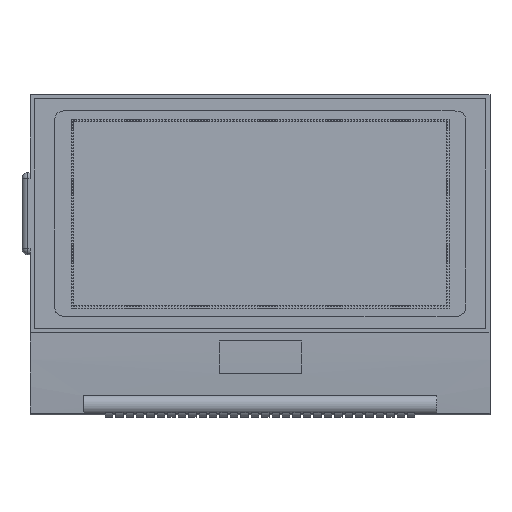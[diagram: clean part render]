
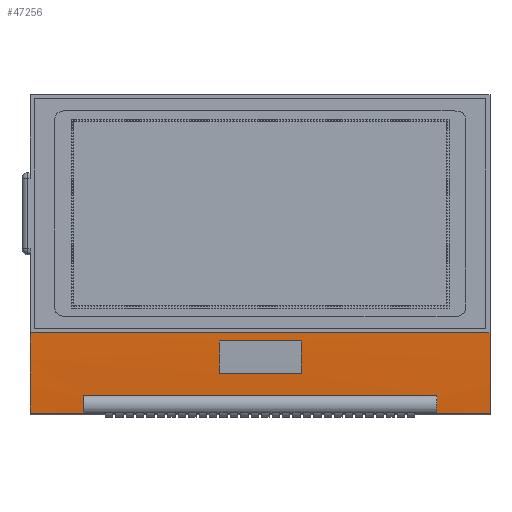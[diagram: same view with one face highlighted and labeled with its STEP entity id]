
A CAD part, top view. The second image highlights one B-rep face of the part: STEP entity #47256.
In plain terms, the highlighted cylindrical face has radius 121.019 mm (diameter 242.039 mm), a partial arc.
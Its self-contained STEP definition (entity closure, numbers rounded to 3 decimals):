
#81 = VERTEX_POINT ( 'NONE', #58075 ) ;
#125 = CIRCLE ( 'NONE', #13686, 121.02 ) ;
#1678 = EDGE_CURVE ( 'NONE', #81, #6415, #22177, .T. ) ;
#1791 = VERTEX_POINT ( 'NONE', #38185 ) ;
#1884 = EDGE_LOOP ( 'NONE', ( #75574, #41851, #46231, #30333 ) ) ;
#4065 = EDGE_CURVE ( 'NONE', #57414, #81, #60618, .T. ) ;
#4075 = CARTESIAN_POINT ( 'NONE',  ( 6.5, -9.792, -0.699 ) ) ;
#6415 = VERTEX_POINT ( 'NONE', #73495 ) ;
#6563 = ORIENTED_EDGE ( 'NONE', *, *, #14241, .F. ) ;
#6680 = CARTESIAN_POINT ( 'NONE',  ( 0., 0., 0. ) ) ;
#6838 = CIRCLE ( 'NONE', #49739, 121.02 ) ;
#7155 = ORIENTED_EDGE ( 'NONE', *, *, #59587, .T. ) ;
#7198 = CIRCLE ( 'NONE', #58668, 121.02 ) ;
#7627 = VERTEX_POINT ( 'NONE', #32875 ) ;
#8560 = VECTOR ( 'NONE', #43774, 1000. ) ;
#8625 = DIRECTION ( 'NONE',  ( 0., 0., 1. ) ) ;
#8831 = CARTESIAN_POINT ( 'NONE',  ( 28., -7.702, -0.483 ) ) ;
#9256 = CARTESIAN_POINT ( 'NONE',  ( 0., 3.715, -120.962 ) ) ;
#9389 = DIRECTION ( 'NONE',  ( 1., 0., 0. ) ) ;
#9698 = DIRECTION ( 'NONE',  ( 1., 0., 0. ) ) ;
#9715 = EDGE_CURVE ( 'NONE', #57414, #49045, #45766, .T. ) ;
#9759 = CARTESIAN_POINT ( 'NONE',  ( 0., 3.715, -120.962 ) ) ;
#10892 = DIRECTION ( 'NONE',  ( 0., 1., 0. ) ) ;
#13317 = EDGE_CURVE ( 'NONE', #7627, #35158, #59276, .T. ) ;
#13686 = AXIS2_PLACEMENT_3D ( 'NONE', #31037, #48289, #17619 ) ;
#14241 = EDGE_CURVE ( 'NONE', #35158, #67479, #7198, .T. ) ;
#14399 = DIRECTION ( 'NONE',  ( 1., 0., 0. ) ) ;
#14905 = VERTEX_POINT ( 'NONE', #66467 ) ;
#15781 = CARTESIAN_POINT ( 'NONE',  ( 56., 0., 0. ) ) ;
#15843 = CARTESIAN_POINT ( 'NONE',  ( 0., -9.8, -0.7 ) ) ;
#16884 = ORIENTED_EDGE ( 'NONE', *, *, #4065, .T. ) ;
#17619 = DIRECTION ( 'NONE',  ( 0., 0., -1. ) ) ;
#17656 = VECTOR ( 'NONE', #74997, 1000. ) ;
#18392 = DIRECTION ( 'NONE',  ( 1., 0., 0. ) ) ;
#18422 = ORIENTED_EDGE ( 'NONE', *, *, #13317, .F. ) ;
#18611 = FACE_BOUND ( 'NONE', #48502, .T. ) ;
#20167 = CARTESIAN_POINT ( 'NONE',  ( 56., 3.715, -120.962 ) ) ;
#20520 = DIRECTION ( 'NONE',  ( 0., 1., 0. ) ) ;
#20567 = VERTEX_POINT ( 'NONE', #4075 ) ;
#21219 = CARTESIAN_POINT ( 'NONE',  ( 23., -1., -0.035 ) ) ;
#22177 = CIRCLE ( 'NONE', #65145, 121.02 ) ;
#22683 = VECTOR ( 'NONE', #9698, 1000. ) ;
#22725 = CARTESIAN_POINT ( 'NONE',  ( 0., -5., -0.257 ) ) ;
#23021 = EDGE_CURVE ( 'NONE', #20567, #69188, #33487, .T. ) ;
#25347 = EDGE_CURVE ( 'NONE', #1791, #44939, #125, .T. ) ;
#25921 = CARTESIAN_POINT ( 'NONE',  ( 23., -5., -0.257 ) ) ;
#26018 = LINE ( 'NONE', #49438, #64977 ) ;
#29159 = EDGE_CURVE ( 'NONE', #20567, #1791, #26018, .T. ) ;
#30014 = ORIENTED_EDGE ( 'NONE', *, *, #9715, .F. ) ;
#30333 = ORIENTED_EDGE ( 'NONE', *, *, #25347, .F. ) ;
#31037 = CARTESIAN_POINT ( 'NONE',  ( 49.5, 3.715, -120.962 ) ) ;
#32875 = CARTESIAN_POINT ( 'NONE',  ( 0., 0., 0. ) ) ;
#32907 = EDGE_CURVE ( 'NONE', #7627, #14905, #6838, .T. ) ;
#33487 = CIRCLE ( 'NONE', #43295, 121.02 ) ;
#34778 = FACE_OUTER_BOUND ( 'NONE', #47335, .T. ) ;
#35158 = VERTEX_POINT ( 'NONE', #15781 ) ;
#36287 = DIRECTION ( 'NONE',  ( -1., 0., 0. ) ) ;
#36665 = CARTESIAN_POINT ( 'NONE',  ( 6.5, 3.715, -120.962 ) ) ;
#36685 = CARTESIAN_POINT ( 'NONE',  ( 33., 3.715, -120.962 ) ) ;
#38053 = FACE_BOUND ( 'NONE', #1884, .T. ) ;
#38185 = CARTESIAN_POINT ( 'NONE',  ( 49.5, -9.792, -0.699 ) ) ;
#38450 = DIRECTION ( 'NONE',  ( 1., 0., 0. ) ) ;
#38748 = AXIS2_PLACEMENT_3D ( 'NONE', #9256, #38450, #49585 ) ;
#41851 = ORIENTED_EDGE ( 'NONE', *, *, #23021, .T. ) ;
#43295 = AXIS2_PLACEMENT_3D ( 'NONE', #36665, #36287, #47418 ) ;
#43384 = AXIS2_PLACEMENT_3D ( 'NONE', #45936, #70168, #52854 ) ;
#43774 = DIRECTION ( 'NONE',  ( -1., 0., 0. ) ) ;
#44939 = VERTEX_POINT ( 'NONE', #61463 ) ;
#45766 = CIRCLE ( 'NONE', #43384, 121.02 ) ;
#45893 = EDGE_CURVE ( 'NONE', #14905, #67479, #63842, .T. ) ;
#45936 = CARTESIAN_POINT ( 'NONE',  ( 23., 3.715, -120.962 ) ) ;
#46231 = ORIENTED_EDGE ( 'NONE', *, *, #74472, .F. ) ;
#46570 = ORIENTED_EDGE ( 'NONE', *, *, #1678, .T. ) ;
#47256 = ADVANCED_FACE ( 'NONE', ( #34778, #18611, #38053 ), #47777, .T. ) ;
#47335 = EDGE_LOOP ( 'NONE', ( #6563, #18422, #65547, #75051 ) ) ;
#47418 = DIRECTION ( 'NONE',  ( 0., 0., -1. ) ) ;
#47777 = CYLINDRICAL_SURFACE ( 'NONE', #38748, 121.02 ) ;
#48289 = DIRECTION ( 'NONE',  ( -1., 0., 0. ) ) ;
#48502 = EDGE_LOOP ( 'NONE', ( #30014, #16884, #46570, #7155 ) ) ;
#49045 = VERTEX_POINT ( 'NONE', #25921 ) ;
#49438 = CARTESIAN_POINT ( 'NONE',  ( 0., -9.792, -0.699 ) ) ;
#49585 = DIRECTION ( 'NONE',  ( 0., 0., -1. ) ) ;
#49739 = AXIS2_PLACEMENT_3D ( 'NONE', #9759, #9389, #20520 ) ;
#52854 = DIRECTION ( 'NONE',  ( 0., 0., 1. ) ) ;
#57200 = CARTESIAN_POINT ( 'NONE',  ( 6.5, -7.702, -0.483 ) ) ;
#57300 = LINE ( 'NONE', #22725, #17656 ) ;
#57414 = VERTEX_POINT ( 'NONE', #21219 ) ;
#58075 = CARTESIAN_POINT ( 'NONE',  ( 33., -1., -0.035 ) ) ;
#58668 = AXIS2_PLACEMENT_3D ( 'NONE', #20167, #14399, #10892 ) ;
#59276 = LINE ( 'NONE', #6680, #69868 ) ;
#59587 = EDGE_CURVE ( 'NONE', #6415, #49045, #57300, .T. ) ;
#60302 = LINE ( 'NONE', #8831, #8560 ) ;
#60618 = LINE ( 'NONE', #65996, #62862 ) ;
#61463 = CARTESIAN_POINT ( 'NONE',  ( 49.5, -7.702, -0.483 ) ) ;
#62862 = VECTOR ( 'NONE', #18392, 1000. ) ;
#63842 = LINE ( 'NONE', #15843, #22683 ) ;
#64977 = VECTOR ( 'NONE', #67489, 1000. ) ;
#65145 = AXIS2_PLACEMENT_3D ( 'NONE', #36685, #65526, #8625 ) ;
#65526 = DIRECTION ( 'NONE',  ( 1., 0., 0. ) ) ;
#65547 = ORIENTED_EDGE ( 'NONE', *, *, #32907, .T. ) ;
#65996 = CARTESIAN_POINT ( 'NONE',  ( 0., -1., -0.035 ) ) ;
#66467 = CARTESIAN_POINT ( 'NONE',  ( 0., -9.8, -0.7 ) ) ;
#66839 = DIRECTION ( 'NONE',  ( 1., 0., 0. ) ) ;
#67479 = VERTEX_POINT ( 'NONE', #67682 ) ;
#67489 = DIRECTION ( 'NONE',  ( 1., 0., 0. ) ) ;
#67682 = CARTESIAN_POINT ( 'NONE',  ( 56., -9.8, -0.7 ) ) ;
#69188 = VERTEX_POINT ( 'NONE', #57200 ) ;
#69868 = VECTOR ( 'NONE', #66839, 1000. ) ;
#70168 = DIRECTION ( 'NONE',  ( 1., 0., 0. ) ) ;
#73495 = CARTESIAN_POINT ( 'NONE',  ( 33., -5., -0.257 ) ) ;
#74472 = EDGE_CURVE ( 'NONE', #44939, #69188, #60302, .T. ) ;
#74997 = DIRECTION ( 'NONE',  ( -1., 0., 0. ) ) ;
#75051 = ORIENTED_EDGE ( 'NONE', *, *, #45893, .T. ) ;
#75574 = ORIENTED_EDGE ( 'NONE', *, *, #29159, .F. ) ;
